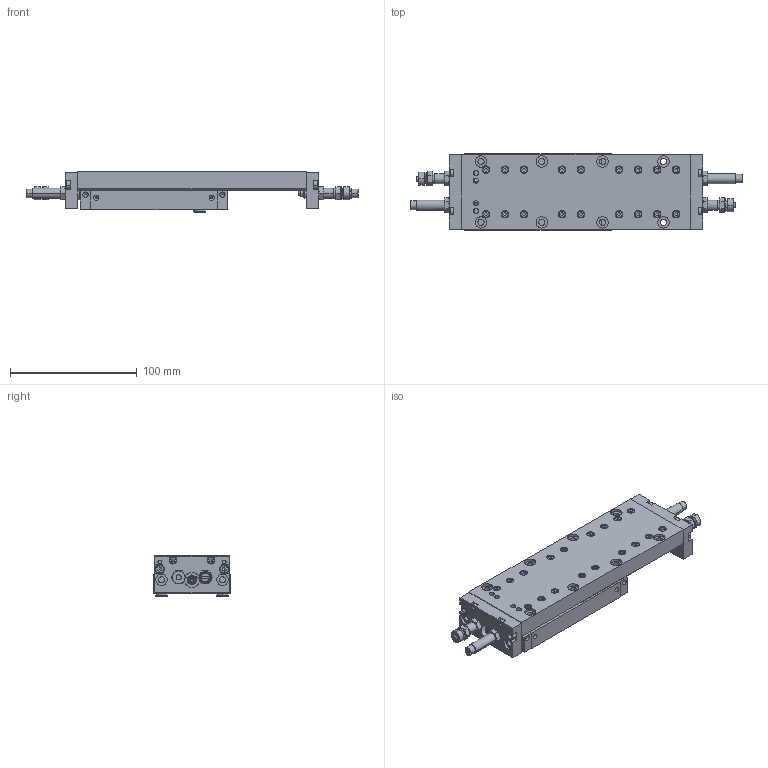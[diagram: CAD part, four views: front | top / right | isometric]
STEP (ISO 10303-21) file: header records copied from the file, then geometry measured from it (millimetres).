
FILE_DESCRIPTION((''),'2;1');
FILE_NAME('V:\CAD\Inventor-Stp\Linearelemente\LES\LES 16 neue Nummern\stp\1000002.stp','2006-02-17T11:22:17',('vs'),(''),'Autodesk Inventor 8','Autodesk Inventor 8','');
FILE_SCHEMA(('AUTOMOTIVE_DESIGN { 1 0 10303 214 1 1 1 1 }'));
Length unit declared in the file: millimetre
Products named in the file (3): Baugruppe1; 1000002-a; 1000002-b
Assembly tree (2 placements, depth 2):
  Baugruppe1
    1000002-a
    1000002-b
Bounding box: 262 x 60 x 31.9 mm (x, y, z)
Volume: 228867.3 mm3; surface area: 96356.9 mm2
Topology: 2 solids, 74 shells, 2073 faces, 5189 edges, 3319 vertices
Faces by surface type: plane 776, bspline 561, cylinder 346, cone 292, torus 98
Entity records: 69934 total; most frequent: CARTESIAN_POINT 22287, ORIENTED_EDGE 10082, DIRECTION 9780, EDGE_CURVE 5041, AXIS2_PLACEMENT_3D 3740, VERTEX_POINT 3319, EDGE_LOOP 2444, VECTOR 2300
